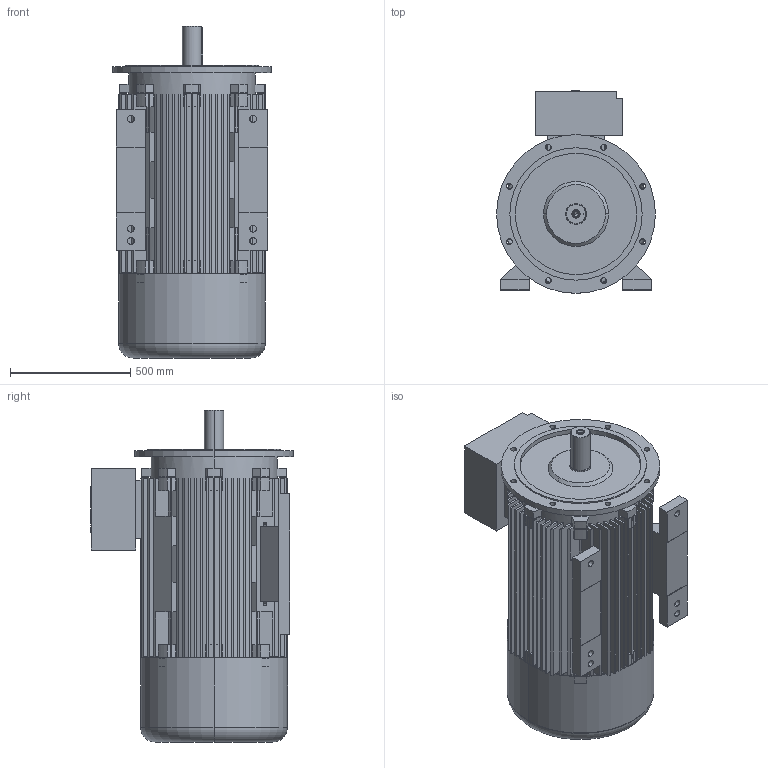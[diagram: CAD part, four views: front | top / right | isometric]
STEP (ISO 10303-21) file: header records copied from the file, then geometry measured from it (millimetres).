
FILE_DESCRIPTION (( 'STEP AP203' ), '1' );
FILE_NAME ('20.18436_C 7AT 315LX -4, -6, -8 B35 Exd STANDK.STEP', '2018-06-26T11:06:58', ( '' ), ( '' ), 'SwSTEP 2.0', 'SolidWorks 2018', '' );
FILE_SCHEMA (( 'CONFIG_CONTROL_DESIGN' ));
Length unit declared in the file: millimetre
Products named in the file (1): 20.18436_C 7AT 315LX -4, -6, -8 B35 Exd STANDK
Bounding box: 660 x 843 x 1380 mm (x, y, z)
Volume: 114180100.8 mm3; surface area: 12006946 mm2
Topology: 7 solids, 7 shells, 852 faces, 2292 edges, 1519 vertices
Faces by surface type: plane 680, cylinder 141, cone 18, bspline 9, torus 4
Entity records: 26874 total; most frequent: CARTESIAN_POINT 4979, ORIENTED_EDGE 4580, DIRECTION 4460, EDGE_CURVE 2290, VECTOR 1724, LINE 1724, VERTEX_POINT 1519, AXIS2_PLACEMENT_3D 1368
